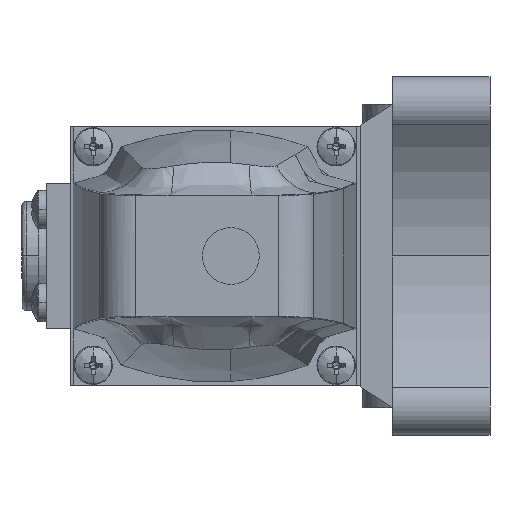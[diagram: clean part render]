
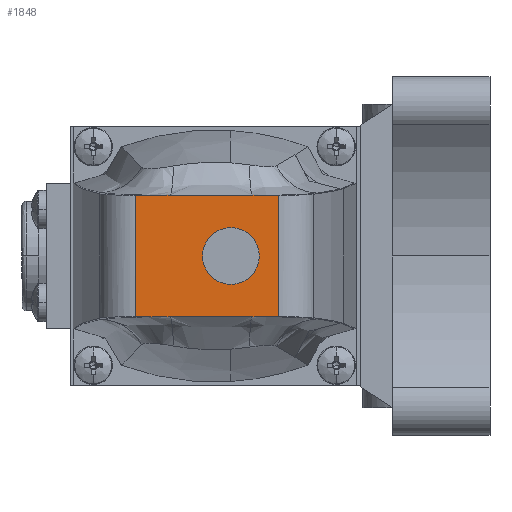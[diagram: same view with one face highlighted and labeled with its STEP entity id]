
A CAD part, left-side view. The second image highlights one B-rep face of the part: STEP entity #1848.
In plain terms, the highlighted planar face has unit normal (-1, 0, 0) as drawn and (0, 1, 0) by its records, which use the part's own axes.
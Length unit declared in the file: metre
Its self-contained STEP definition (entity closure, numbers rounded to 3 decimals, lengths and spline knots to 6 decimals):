
#72 = CARTESIAN_POINT ( 'NONE',  ( 0.015, 0.1617, 0.005879 ) ) ;
#94 = DIRECTION ( 'NONE',  ( 0., 0., -1. ) ) ;
#192 = FACE_BOUND ( 'NONE', #7050, .T. ) ;
#210 = DIRECTION ( 'NONE',  ( 0., 1., 0. ) ) ;
#225 = DIRECTION ( 'NONE',  ( 0., 0., 1. ) ) ;
#416 = AXIS2_PLACEMENT_3D ( 'NONE', #2892, #210, #225 ) ;
#713 = EDGE_CURVE ( 'NONE', #4938, #14415, #1677, .T. ) ;
#1011 = CARTESIAN_POINT ( 'NONE',  ( 0.015009, 0.1617, 0.014983 ) ) ;
#1245 = DIRECTION ( 'NONE',  ( 0., -1., 0. ) ) ;
#1415 = ORIENTED_EDGE ( 'NONE', *, *, #10931, .T. ) ;
#1543 = CARTESIAN_POINT ( 'NONE',  ( 0.015009, 0.1617, 0.014983 ) ) ;
#1582 = CARTESIAN_POINT ( 'NONE',  ( -0.015009, 0.1617, 0.014983 ) ) ;
#1677 = LINE ( 'NONE', #4302, #8439 ) ;
#1770 = EDGE_LOOP ( 'NONE', ( #2476, #9662, #12887, #16453, #4139, #8898, #1415, #10986, #11965, #13183, #1932, #14268 ) ) ;
#1848 = ADVANCED_FACE ( 'NONE', ( #192, #17467 ), #17430, .T. ) ;
#1932 = ORIENTED_EDGE ( 'NONE', *, *, #6030, .T. ) ;
#2175 = VERTEX_POINT ( 'NONE', #13799 ) ;
#2407 = VECTOR ( 'NONE', #94, 1. ) ;
#2476 = ORIENTED_EDGE ( 'NONE', *, *, #6240, .T. ) ;
#2592 = EDGE_CURVE ( 'NONE', #16013, #4938, #5208, .T. ) ;
#2692 = CARTESIAN_POINT ( 'NONE',  ( 0.007, 0.1617, 0. ) ) ;
#2739 = CIRCLE ( 'NONE', #15380, 0.007 ) ;
#2842 = VERTEX_POINT ( 'NONE', #1582 ) ;
#2892 = CARTESIAN_POINT ( 'NONE',  ( -0.015211, 0.1617, -0.011838 ) ) ;
#3087 = EDGE_CURVE ( 'NONE', #3712, #2175, #8444, .T. ) ;
#3693 = CARTESIAN_POINT ( 'NONE',  ( 0.015028, 0.1617, 0.008259 ) ) ;
#3712 = VERTEX_POINT ( 'NONE', #1543 ) ;
#3805 = B_SPLINE_CURVE_WITH_KNOTS ( 'NONE', 3,
 ( #7706, #7864, #7913, #7950 ),
 .UNSPECIFIED., .F., .F.,
 ( 4, 4 ),
 ( 0., 0.002958 ),
 .UNSPECIFIED. ) ;
#3927 = CARTESIAN_POINT ( 'NONE',  ( -0.015, 0.1617, -0.008814 ) ) ;
#4139 = ORIENTED_EDGE ( 'NONE', *, *, #5944, .T. ) ;
#4226 = VERTEX_POINT ( 'NONE', #9618 ) ;
#4246 = DIRECTION ( 'NONE',  ( 0., 0., -1. ) ) ;
#4302 = CARTESIAN_POINT ( 'NONE',  ( 0.015, 0.1617, 0.005879 ) ) ;
#4566 = CARTESIAN_POINT ( 'NONE',  ( -0.015011, 0.1617, -0.006397 ) ) ;
#4593 = CARTESIAN_POINT ( 'NONE',  ( -0.015, 0.1617, -0.007605 ) ) ;
#4619 = CARTESIAN_POINT ( 'NONE',  ( -0.015014, 0.1617, -0.005189 ) ) ;
#4675 = EDGE_CURVE ( 'NONE', #15313, #12788, #10611, .T. ) ;
#4938 = VERTEX_POINT ( 'NONE', #9639 ) ;
#5147 = CARTESIAN_POINT ( 'NONE',  ( 0.015025, 0.1617, -0.001827 ) ) ;
#5208 = LINE ( 'NONE', #8081, #15728 ) ;
#5256 = CARTESIAN_POINT ( 'NONE',  ( -0.015025, 0.1617, -0.001827 ) ) ;
#5944 = EDGE_CURVE ( 'NONE', #15102, #16809, #8783, .T. ) ;
#6030 = EDGE_CURVE ( 'NONE', #14415, #3712, #9220, .T. ) ;
#6199 = CARTESIAN_POINT ( 'NONE',  ( 0.015, 0.1617, -0.011838 ) ) ;
#6240 = EDGE_CURVE ( 'NONE', #2175, #4226, #16869, .T. ) ;
#6646 = CARTESIAN_POINT ( 'NONE',  ( -0.015031, 0.1617, 0.001535 ) ) ;
#6866 = ORIENTED_EDGE ( 'NONE', *, *, #15213, .T. ) ;
#6872 = LINE ( 'NONE', #72, #2407 ) ;
#7050 = EDGE_LOOP ( 'NONE', ( #7963, #6866 ) ) ;
#7589 = CARTESIAN_POINT ( 'NONE',  ( 0.015, 0.1617, 0.016956 ) ) ;
#7706 = CARTESIAN_POINT ( 'NONE',  ( -0.015009, 0.1617, 0.014983 ) ) ;
#7863 = VECTOR ( 'NONE', #17371, 1. ) ;
#7864 = CARTESIAN_POINT ( 'NONE',  ( -0.015006, 0.1617, 0.01597 ) ) ;
#7913 = CARTESIAN_POINT ( 'NONE',  ( -0.015, 0.1617, 0.016956 ) ) ;
#7950 = CARTESIAN_POINT ( 'NONE',  ( -0.015, 0.1617, 0.017942 ) ) ;
#7963 = ORIENTED_EDGE ( 'NONE', *, *, #4675, .T. ) ;
#7981 = CARTESIAN_POINT ( 'NONE',  ( -0.015019, 0.1617, 0.011621 ) ) ;
#8081 = CARTESIAN_POINT ( 'NONE',  ( 0., 0.1617, 0.023596 ) ) ;
#8439 = VECTOR ( 'NONE', #4246, 1. ) ;
#8444 = B_SPLINE_CURVE_WITH_KNOTS ( 'NONE', 3,
 ( #1011, #17363, #3693, #14535, #5147, #13349 ),
 .UNSPECIFIED., .F., .F.,
 ( 4, 2, 4 ),
 ( 0., 0.010086, 0.020172 ),
 .UNSPECIFIED. ) ;
#8569 = AXIS2_PLACEMENT_3D ( 'NONE', #17125, #17144, #17199 ) ;
#8783 = B_SPLINE_CURVE_WITH_KNOTS ( 'NONE', 3,
 ( #3927, #4593, #4566, #4619 ),
 .UNSPECIFIED., .F., .F.,
 ( 4, 4 ),
 ( 0., 0.003625 ),
 .UNSPECIFIED. ) ;
#8801 = EDGE_CURVE ( 'NONE', #17522, #15102, #9414, .T. ) ;
#8898 = ORIENTED_EDGE ( 'NONE', *, *, #12917, .T. ) ;
#8974 = CARTESIAN_POINT ( 'NONE',  ( -0.015, 0.1617, 0.005879 ) ) ;
#9220 = B_SPLINE_CURVE_WITH_KNOTS ( 'NONE', 3,
 ( #9242, #7589, #9317, #9342 ),
 .UNSPECIFIED., .F., .F.,
 ( 4, 4 ),
 ( 0., 0.002958 ),
 .UNSPECIFIED. ) ;
#9242 = CARTESIAN_POINT ( 'NONE',  ( 0.015, 0.1617, 0.017942 ) ) ;
#9250 = CARTESIAN_POINT ( 'NONE',  ( -0.015, 0.1617, -0.011838 ) ) ;
#9287 = CARTESIAN_POINT ( 'NONE',  ( -0.015014, 0.1617, -0.005189 ) ) ;
#9317 = CARTESIAN_POINT ( 'NONE',  ( 0.015006, 0.1617, 0.01597 ) ) ;
#9323 = CARTESIAN_POINT ( 'NONE',  ( 0., 0.1617, 0. ) ) ;
#9342 = CARTESIAN_POINT ( 'NONE',  ( 0.015009, 0.1617, 0.014983 ) ) ;
#9414 = LINE ( 'NONE', #16958, #16341 ) ;
#9440 = B_SPLINE_CURVE_WITH_KNOTS ( 'NONE', 3,
 ( #9287, #5256, #6646, #16239, #7981, #17628 ),
 .UNSPECIFIED., .F., .F.,
 ( 4, 2, 4 ),
 ( 0., 0.010086, 0.020172 ),
 .UNSPECIFIED. ) ;
#9618 = CARTESIAN_POINT ( 'NONE',  ( 0.015, 0.1617, -0.008814 ) ) ;
#9639 = CARTESIAN_POINT ( 'NONE',  ( 0.015, 0.1617, 0.023596 ) ) ;
#9662 = ORIENTED_EDGE ( 'NONE', *, *, #9738, .T. ) ;
#9738 = EDGE_CURVE ( 'NONE', #4226, #12364, #6872, .T. ) ;
#10452 = CARTESIAN_POINT ( 'NONE',  ( -0.015, 0.1617, -0.008814 ) ) ;
#10565 = VERTEX_POINT ( 'NONE', #11718 ) ;
#10611 = CIRCLE ( 'NONE', #8569, 0.007 ) ;
#10694 = DIRECTION ( 'NONE',  ( 1., 0., 0. ) ) ;
#10931 = EDGE_CURVE ( 'NONE', #2842, #10565, #3805, .T. ) ;
#10986 = ORIENTED_EDGE ( 'NONE', *, *, #13502, .T. ) ;
#11487 = LINE ( 'NONE', #8974, #7863 ) ;
#11718 = CARTESIAN_POINT ( 'NONE',  ( -0.015, 0.1617, 0.017942 ) ) ;
#11965 = ORIENTED_EDGE ( 'NONE', *, *, #2592, .T. ) ;
#12027 = CARTESIAN_POINT ( 'NONE',  ( 0., 0.1617, -0.011838 ) ) ;
#12205 = CARTESIAN_POINT ( 'NONE',  ( 0.015, 0.1617, 0.017942 ) ) ;
#12364 = VERTEX_POINT ( 'NONE', #6199 ) ;
#12503 = CARTESIAN_POINT ( 'NONE',  ( -0.015, 0.1617, 0.023596 ) ) ;
#12788 = VERTEX_POINT ( 'NONE', #17338 ) ;
#12887 = ORIENTED_EDGE ( 'NONE', *, *, #15791, .T. ) ;
#12917 = EDGE_CURVE ( 'NONE', #16809, #2842, #9440, .T. ) ;
#13183 = ORIENTED_EDGE ( 'NONE', *, *, #713, .T. ) ;
#13349 = CARTESIAN_POINT ( 'NONE',  ( 0.015014, 0.1617, -0.005189 ) ) ;
#13488 = DIRECTION ( 'NONE',  ( -1., 0., 0. ) ) ;
#13502 = EDGE_CURVE ( 'NONE', #10565, #16013, #11487, .T. ) ;
#13799 = CARTESIAN_POINT ( 'NONE',  ( 0.015014, 0.1617, -0.005189 ) ) ;
#14268 = ORIENTED_EDGE ( 'NONE', *, *, #3087, .T. ) ;
#14415 = VERTEX_POINT ( 'NONE', #12205 ) ;
#14494 = VECTOR ( 'NONE', #13488, 1. ) ;
#14535 = CARTESIAN_POINT ( 'NONE',  ( 0.015031, 0.1617, 0.001535 ) ) ;
#15102 = VERTEX_POINT ( 'NONE', #10452 ) ;
#15213 = EDGE_CURVE ( 'NONE', #12788, #15313, #2739, .T. ) ;
#15313 = VERTEX_POINT ( 'NONE', #2692 ) ;
#15346 = LINE ( 'NONE', #12027, #14494 ) ;
#15380 = AXIS2_PLACEMENT_3D ( 'NONE', #9323, #1245, #10694 ) ;
#15422 = CARTESIAN_POINT ( 'NONE',  ( 0.015011, 0.1617, -0.006397 ) ) ;
#15445 = CARTESIAN_POINT ( 'NONE',  ( 0.015014, 0.1617, -0.005189 ) ) ;
#15540 = CARTESIAN_POINT ( 'NONE',  ( 0.015, 0.1617, -0.007605 ) ) ;
#15564 = CARTESIAN_POINT ( 'NONE',  ( 0.015, 0.1617, -0.008814 ) ) ;
#15568 = DIRECTION ( 'NONE',  ( 0., 0., 1. ) ) ;
#15728 = VECTOR ( 'NONE', #16328, 1. ) ;
#15791 = EDGE_CURVE ( 'NONE', #12364, #17522, #15346, .T. ) ;
#16013 = VERTEX_POINT ( 'NONE', #12503 ) ;
#16239 = CARTESIAN_POINT ( 'NONE',  ( -0.015028, 0.1617, 0.008259 ) ) ;
#16328 = DIRECTION ( 'NONE',  ( 1., 0., 0. ) ) ;
#16341 = VECTOR ( 'NONE', #15568, 1. ) ;
#16453 = ORIENTED_EDGE ( 'NONE', *, *, #8801, .T. ) ;
#16809 = VERTEX_POINT ( 'NONE', #17201 ) ;
#16869 = B_SPLINE_CURVE_WITH_KNOTS ( 'NONE', 3,
 ( #15445, #15422, #15540, #15564 ),
 .UNSPECIFIED., .F., .F.,
 ( 4, 4 ),
 ( 0., 0.003625 ),
 .UNSPECIFIED. ) ;
#16958 = CARTESIAN_POINT ( 'NONE',  ( -0.015, 0.1617, 0.005879 ) ) ;
#17125 = CARTESIAN_POINT ( 'NONE',  ( 0., 0.1617, 0. ) ) ;
#17144 = DIRECTION ( 'NONE',  ( 0., -1., 0. ) ) ;
#17199 = DIRECTION ( 'NONE',  ( 1., 0., 0. ) ) ;
#17201 = CARTESIAN_POINT ( 'NONE',  ( -0.015014, 0.1617, -0.005189 ) ) ;
#17338 = CARTESIAN_POINT ( 'NONE',  ( -0.007, 0.1617, 0. ) ) ;
#17363 = CARTESIAN_POINT ( 'NONE',  ( 0.015019, 0.1617, 0.011621 ) ) ;
#17371 = DIRECTION ( 'NONE',  ( 0., 0., 1. ) ) ;
#17430 = PLANE ( 'NONE',  #416 ) ;
#17467 = FACE_OUTER_BOUND ( 'NONE', #1770, .T. ) ;
#17522 = VERTEX_POINT ( 'NONE', #9250 ) ;
#17628 = CARTESIAN_POINT ( 'NONE',  ( -0.015009, 0.1617, 0.014983 ) ) ;
